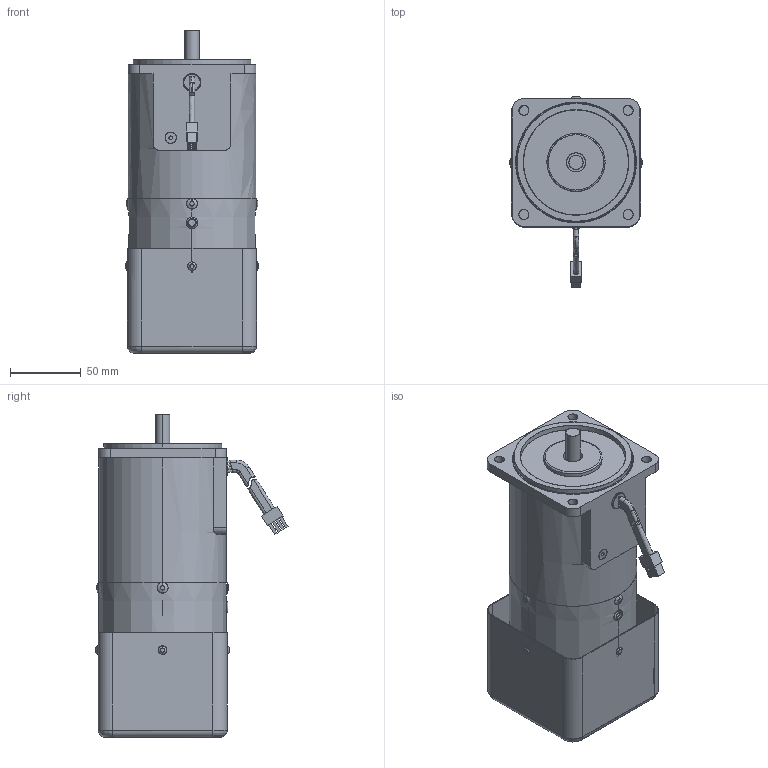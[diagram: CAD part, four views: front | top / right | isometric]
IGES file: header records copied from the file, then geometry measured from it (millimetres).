
Start section: SolidWorks IGES file using analytic representation for surfaces
Global section: file name: \\楷备家烹钦辑滚\data (D)\档搁 枚\权其捞瘤 档搁\9. SPEED BRAKE\90\60W\(9-58) 9SBDG∴-60F2H.IGS; native system: SolidWorks 2007; preprocessor: SolidWorks 2007; author: user; date: 150723.090203; units: millimetre
Bounding box: 94 x 135.4 x 227.5 mm (x, y, z)
Surface area: 210665.6 mm2 (no closed solid volume)
Topology: 0 solids, 0 shells, 462 faces, 9192 edges, 9192 vertices
Faces by surface type: revolution 286, bspline 176
